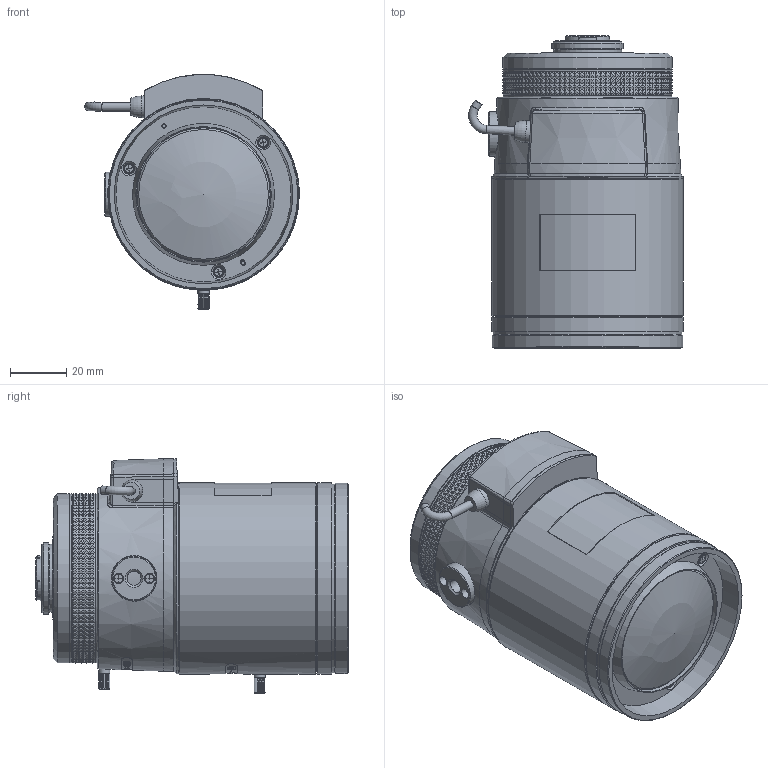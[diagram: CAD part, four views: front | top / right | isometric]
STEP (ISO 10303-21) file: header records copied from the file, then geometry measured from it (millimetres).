
FILE_DESCRIPTION(/* description */ ('Unknown'),/* implementation_level */ '2;1');
FILE_NAME(/* name */ 'EG6Z0915FCS-MPWIR_210401',/* time_stamp */ '2021-04-01T11:00:56+09:00',/* author */ ('Unknown'),/* organization */ ('Unknown'),/* preprocessor_version */ 'ST-DEVELOPER v16.7',/* originating_system */ 'DEX',/* authorisation */ $);
FILE_SCHEMA (('TECHNICAL_DATA_PACKAGING','AUTOMOTIVE_DESIGN {1 0 10303 214 3 1 1}'));
Length unit declared in the file: millimetre
Products named in the file (1): EG6Z0915FCS-MPWIR_210401
Bounding box: 76.18 x 110.71 x 83.28 mm (x, y, z)
Volume: 357283.1 mm3; surface area: 36595.7 mm2
Topology: 1 solids, 19 shells, 2547 faces, 5176 edges, 2740 vertices
Faces by surface type: plane 1374, cone 930, cylinder 178, bspline 35, torus 26, sphere 4
Full cylindrical faces by diameter (mm): 1.2 x1, 1.4 x5, 1.5 x5, 1.54 x1, 1.6 x2, 1.7 x1, 2 x9, 2.1 x6, 2.2 x3, 3 x2, 3.6 x2, 3.7 x4, 3.986 x1, 4 x1, 4.975 x1, 7.699 x1, 9.9 x1, 15.7 x1, 16.2 x1, 23 x1, 24.2 x1, 25.4 x1, 43.2 x1, 58.296 x1, 58.402 x2, 59.902 x1, 60 x1, 60.002 x1, 66.9 x1, 67.5 x1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
Entity records: 84088 total; most frequent: CARTESIAN_POINT 17696, ORIENTED_EDGE 9924, DIRECTION 9711, EDGE_CURVE 4962, AXIS2_PLACEMENT_3D 4110, EDGE_LOOP 2793, FACE_BOUND 2793, VERTEX_POINT 2665
